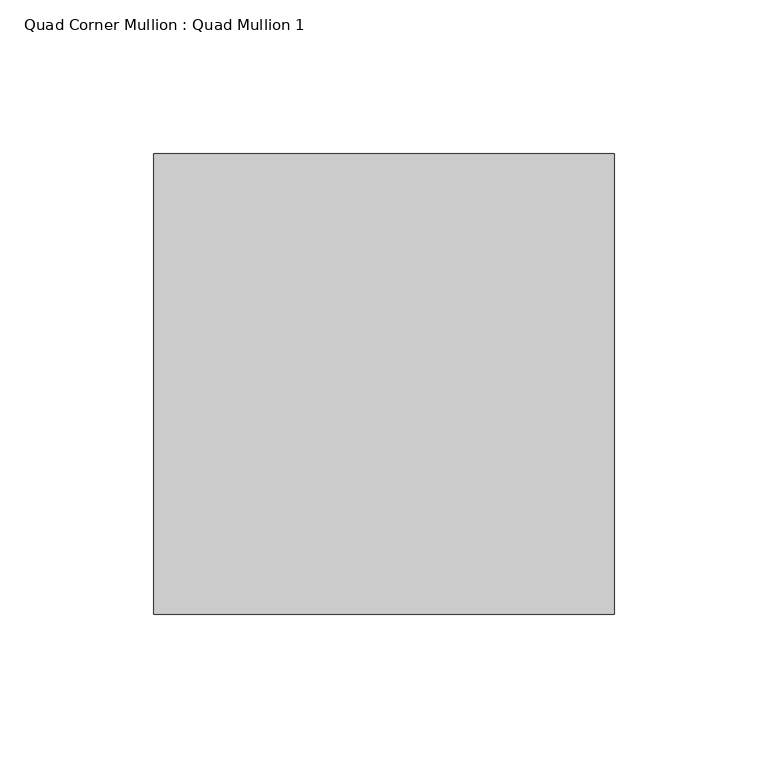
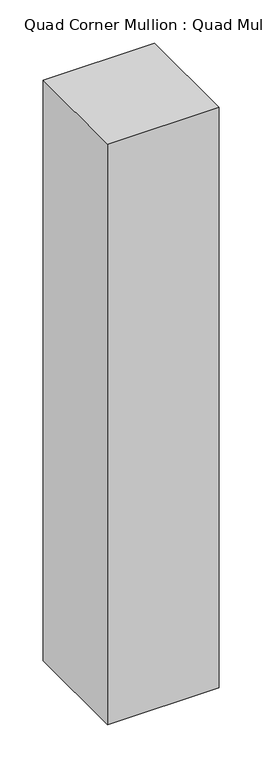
"""IFC4 building model written with IfcOpenShell, lengths in millimetres: member geometry, Quad Corner Mullion : Quad Mullion 1."""

from ifc_helpers import new_model, si_unit, frame, origin, place, context, project, spatial, polyline, outline, extrude, source, transform, mapped, element, save


def quad_corner_mullion_quad_mullion_1_81362c20(model_context):
    return source(origin(), model_context, "Body", "SweptSolid", [
        extrude(outline(polyline([(75.0, -75.0), (-75.0, -75.0), (-75.0, 75.0), (75.0, 75.0), (75.0, -75.0)])), frame((0.0, 0.0, -824.5150656), z_axis=(0.0, 0.0, 1.0), x_axis=(1.0, 0.0, 0.0)), (0.0, 0.0, 1.0), 824.5150656),
    ])


if __name__ == "__main__":
    model = new_model("IFC4")
    model_context = context("Model", 3, world=origin())
    ifc_project = project(units=[si_unit("LENGTHUNIT", "METRE", prefix="MILLI")], contexts=[model_context])
    site = spatial("IfcSite", under=ifc_project)
    building = spatial("IfcBuilding", under=site)
    placement = place(None, origin())
    quad_corner_mullion_quad_mullion_1_shape = quad_corner_mullion_quad_mullion_1_81362c20(model_context)
    element("IfcMember", 1, ObjectType="Quad Corner Mullion : Quad Mullion 1", at=placement, inside=building, context=model_context, shape_type="MappedRepresentation", body=[
        mapped(quad_corner_mullion_quad_mullion_1_shape, transform((0.0, 0.0, 0.0), x_axis=(1.0, 0.0, 0.0), y_axis=(0.0, 1.0, 0.0), z_axis=(0.0, 0.0, 1.0))),
    ])
    save(model, "model.ifc")
